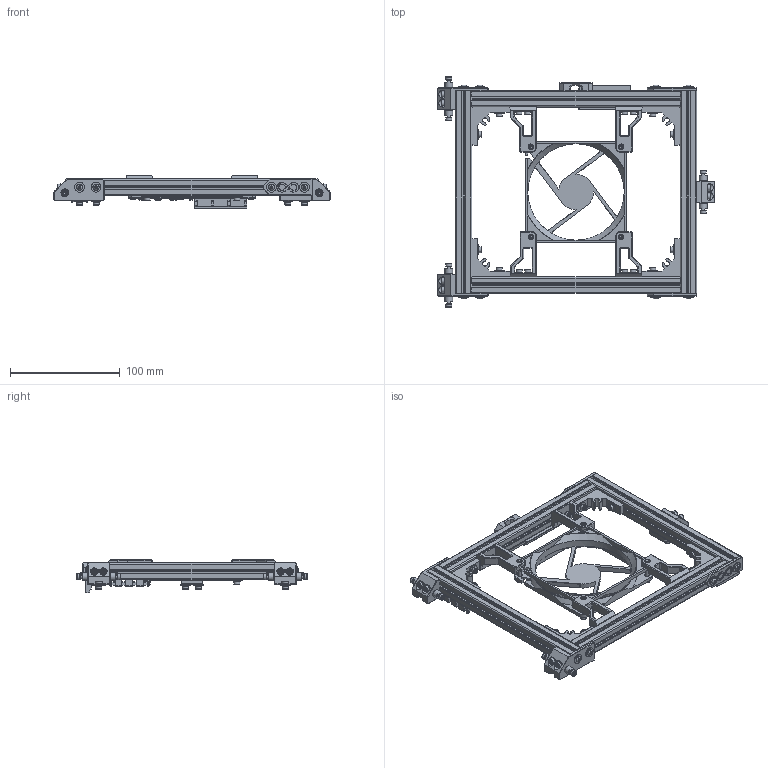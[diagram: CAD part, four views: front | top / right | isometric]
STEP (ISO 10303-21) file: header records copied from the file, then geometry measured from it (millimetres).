
FILE_DESCRIPTION(('FreeCAD Model'),'2;1');
FILE_NAME('Open CASCADE Shape Model','2021-10-27T23:17:44',('Author'),( ''),'Open CASCADE STEP processor 7.4','FreeCAD','Unknown');
FILE_SCHEMA(('AUTOMOTIVE_DESIGN { 1 0 10303 214 1 1 1 1 }'));
Length unit declared in the file: millimetre
Products named in the file (129): 1515-bed-sammbly; 1515-185mm001; 1515-190mm001; 1515-190mm002; 1515-185mm002; _HBLTBS3; _HBLTBS004; _HBLTBS005; _HBLTBS006; 92mm-slim0fan; 1515-connector-mounter_(Mirror_#1)001; 1515-bed-cable-mounter001; 1515-bed-back-cable-clamp002; M3x10-Screw; M3-Washer067; M3x10-Screw022; M3-Washer; M3x10-Screw023; M3x10-Screw024; M3-Washer073; M3-Washer072; M3x10-Screw018; M3-Washer056; M3x10-Screw019; M3-Washer057; M3-Washer061; M3x10-Screw020; M3x10-Screw021; M3-Washer062; M3-Washer078; M3x10-Screw025; M3x10-Screw026; M3-Washer079; 1515-92mm-fan-mount001; 1515-92mm-fan-mount001_(Mirror_#1)001; 1515-92mm-fan-mount001_(Mirror_#1)002; 1515-92mm-fan-mount002; M3x20-Screw002; M3x20-Screw001; M3x20-Screw003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
Assembly tree (128 placements, depth 2):
  1515-bed-sammbly
    1515-185mm001
    1515-190mm001
    1515-190mm002
    1515-185mm002
    _HBLTBS3
    _HBLTBS004
    _HBLTBS005
    _HBLTBS006
    92mm-slim0fan
    1515-connector-mounter_(Mirror_#1)001
    1515-bed-cable-mounter001
    1515-bed-back-cable-clamp002
    M3x10-Screw
    M3-Washer067
    M3x10-Screw022
    M3-Washer
    M3x10-Screw023
    M3x10-Screw024
    M3-Washer073
    M3-Washer072
    M3x10-Screw018
    M3-Washer056
    M3x10-Screw019
    M3-Washer057
    M3-Washer061
    M3x10-Screw020
    M3x10-Screw021
    M3-Washer062
    M3-Washer078
    M3x10-Screw025
    M3x10-Screw026
    M3-Washer079
    1515-92mm-fan-mount001
    1515-92mm-fan-mount001_(Mirror_#1)001
    1515-92mm-fan-mount001_(Mirror_#1)002
    1515-92mm-fan-mount002
    M3x20-Screw002
    M3x20-Screw001
    M3x20-Screw003
    M3-Washer016
    M3-Washer017
    M3-Washer018
    M3x20-Screw
    M3-Washer015
    top-spring-spacer-002
    top-spring-spacer-001
    top-spring-spacer-003
    top-spring-spacer-004
    top-spring-spacer-006
    top-spring-spacer-005
    M3x14-Screw025
    M3x14-Screw024
    M3x14-Screw
    M3x14-Screw032
    M3x14-Screw031
    M3x14-Screw030
    M3x14-Screw034
    M3x14-Screw033
    M3x14-Screw027
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Bounding box: 252 x 210 x 30.65 mm (x, y, z)
Volume: 198419.4 mm3; surface area: 179430.2 mm2
Topology: 128 solids, 128 shells, 3782 faces, 9321 edges, 5874 vertices
Faces by surface type: plane 2723, cylinder 516, cone 346, revolution 113, sphere 76, bspline 8
Full cylindrical faces by diameter (mm): 2.5 x4, 3 x70, 3.2 x60, 3.3 x15, 3.4 x14, 3.8 x10, 4.5 x4, 5.5 x50, 5.9 x3, 6 x10, 6.4 x4, 7 x6, 9 x26, 87.9 x1, 92 x1
Entity records: 246379 total; most frequent: CARTESIAN_POINT 57957, DIRECTION 34371, LINE 20397, VECTOR 20397, ORIENTED_EDGE 18516, PCURVE 18516, DEFINITIONAL_REPRESENTATION 18516, EDGE_CURVE 9258
